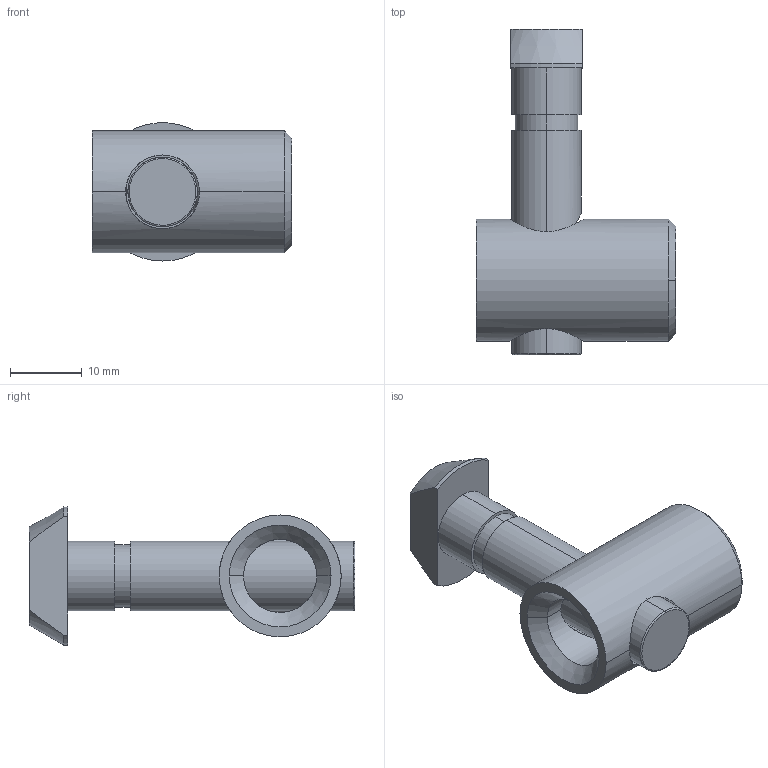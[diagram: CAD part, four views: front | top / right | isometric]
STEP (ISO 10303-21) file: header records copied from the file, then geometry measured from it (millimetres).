
FILE_DESCRIPTION (( 'STEP AP203' ), '1' );
FILE_NAME ('5214.STEP', '2016-04-25T06:07:36', ( 'RosInstal-MKM' ), ( '' ), 'SwSTEP 2.0', 'SolidWorks 2014', '' );
FILE_SCHEMA (( 'CONFIG_CONTROL_DESIGN' ));
Length unit declared in the file: millimetre
Products named in the file (4): SNSD.30.50.49 ¦ðûõ¡_D75D76_00; D75SNSD.30.50.30 Tªðúðý_T16C17D76_00; D75SNSD.30.50.31 T糶泣T16C17D76_00; 5214
Assembly tree (3 placements, depth 2):
  5214
    SNSD.30.50.49 ¦ðûõ¡_D75D76_00
    D75SNSD.30.50.30 Tªðúðý_T16C17D76_00
    D75SNSD.30.50.31 T糶泣T16C17D76_00
Bounding box: 27.8 x 45.4 x 19.27 mm (x, y, z)
Volume: 7847.4 mm3; surface area: 5135.2 mm2
Topology: 3 solids, 3 shells, 59 faces, 141 edges, 91 vertices
Faces by surface type: plane 25, cylinder 19, cone 11, bspline 4
Entity records: 2690 total; most frequent: CARTESIAN_POINT 943, ORIENTED_EDGE 282, DIRECTION 274, EDGE_CURVE 141, AXIS2_PLACEMENT_3D 110, VERTEX_POINT 91, EDGE_LOOP 68, ADVANCED_FACE 59
